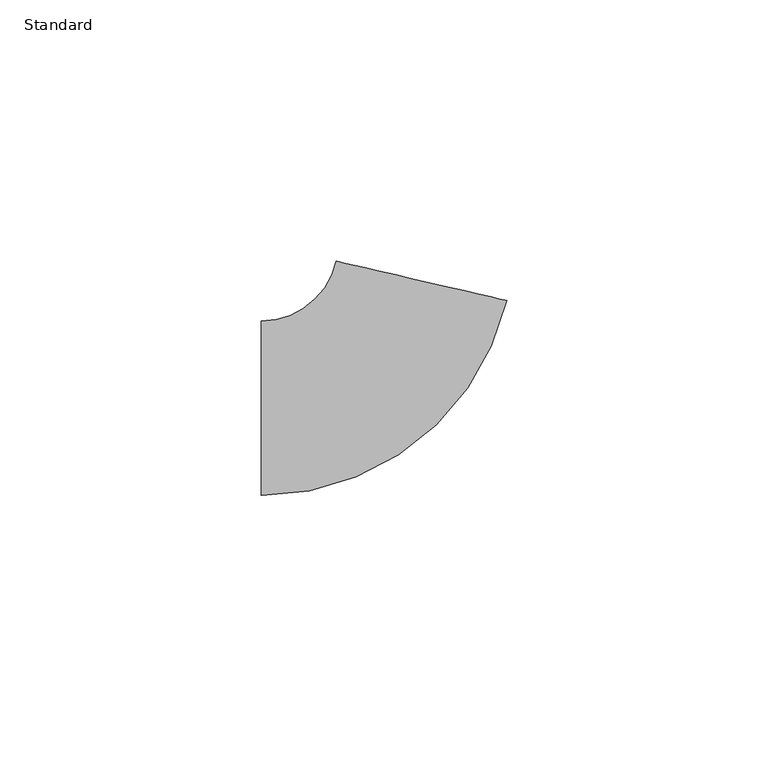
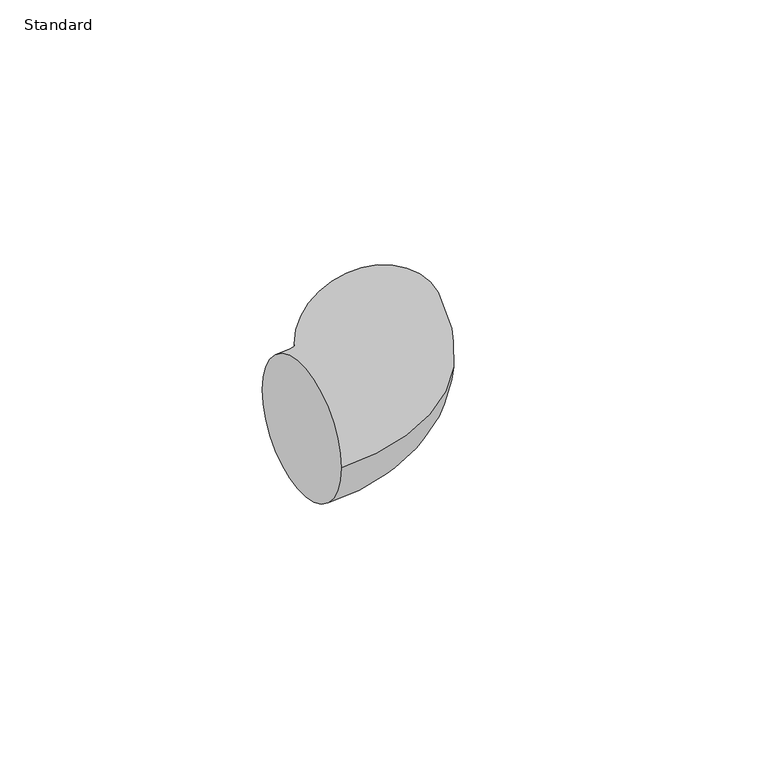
"""IFC4 building model written with IfcOpenShell, lengths in millimetres: pipe fitting geometry, Coude - Générique1 : Standard."""

import ifcopenshell
import ifcopenshell.guid

model = None  # the IFC model being written
_history = None  # IfcOwnerHistory: only IFC2X3 demands one
_inside = {}  # id of a spatial element -> (the spatial element, [elements in it])
_under = {}  # id of a project, library or spatial element -> (it, [spatial elements below it])
_declared = {}  # id of a project -> (the project, [libraries it declares])
_typed = {}  # id of a type object -> (the type object, [elements of that type])
_made_of = {}  # id of a material, layer set ... -> (it, [elements and type objects made of it])


def new_model(schema):
    """Start an empty IFC model of exactly this schema.

    Asked for "IFC4X3", IfcOpenShell would pick the latest addendum, in which some entities
    have other attributes; the version numbers below select the first issue.
    IFC2X3 requires an IfcOwnerHistory on every rooted entity: one is made here for all.
    """
    global model, _history
    if schema == "IFC4X3":
        model = ifcopenshell.file(schema_version=(4, 3, 0, 0))
    else:
        model = ifcopenshell.file(schema=schema)
    _inside.clear()
    _under.clear()
    _declared.clear()
    _typed.clear()
    _made_of.clear()
    _history = None
    if model.schema == "IFC2X3":
        org = make("IfcOrganization", Name="unknown")
        user = make(
            "IfcPersonAndOrganization",
            ThePerson=make("IfcPerson", FamilyName="unknown"),
            TheOrganization=org,
        )
        app = make(
            "IfcApplication",
            ApplicationDeveloper=org,
            Version="unknown",
            ApplicationFullName="unknown",
            ApplicationIdentifier="unknown",
        )
        _history = make(
            "IfcOwnerHistory",
            OwningUser=user,
            OwningApplication=app,
            ChangeAction="ADDED",
            CreationDate=0,
        )
    return model


def make(cls, **values):
    """One entity of the class cls with the attributes given. An attribute that is None is left unset."""
    return model.create_entity(
        cls, **{name: value for name, value in values.items() if value is not None}
    )


def rooted(cls, **values):
    """An entity with a GlobalId (a new one), such as an element, a storey or a relation."""
    return make(cls, GlobalId=ifcopenshell.guid.new(), OwnerHistory=_history, **values)


def si_unit(unit_type, name, prefix=None):
    """IfcSIUnit, for example si_unit("LENGTHUNIT", "METRE", prefix="MILLI")."""
    return make("IfcSIUnit", UnitType=unit_type, Prefix=prefix, Name=name)


def assignment(units):
    """IfcUnitAssignment: the units of a project."""
    return None if units is None else make("IfcUnitAssignment", Units=units)


def point(xyz):
    """IfcCartesianPoint."""
    return None if xyz is None else make("IfcCartesianPoint", Coordinates=xyz)


def direction(xyz):
    """IfcDirection."""
    return None if xyz is None else make("IfcDirection", DirectionRatios=xyz)


def frame(location, z_axis=None, x_axis=None):
    """IfcAxis2Placement3D, a coordinate frame: its origin and axes. An axis left out is left unset."""
    return make(
        "IfcAxis2Placement3D",
        Location=point(location),
        Axis=direction(z_axis),
        RefDirection=direction(x_axis),
    )


def origin():
    """The frame at (0, 0, 0) with its axes left unset."""
    return frame((0.0, 0.0, 0.0))


def place(relative_to, where):
    """IfcLocalPlacement: puts the frame where relative to a parent placement (None: the world)."""
    return make(
        "IfcLocalPlacement", PlacementRelTo=relative_to, RelativePlacement=where
    )


def context(
    kind, dimensions, precision=None, world=None, true_north=None, identifier=None
):
    """IfcGeometricRepresentationContext, for example the 3D "Model" context."""
    return make(
        "IfcGeometricRepresentationContext",
        ContextIdentifier=identifier,
        ContextType=kind,
        CoordinateSpaceDimension=dimensions,
        Precision=precision,
        WorldCoordinateSystem=world,
        TrueNorth=true_north,
    )


def project(units=None, contexts=None):
    """IfcProject with its units and contexts."""
    return rooted(
        "IfcProject",
        Name="project",
        RepresentationContexts=contexts,
        UnitsInContext=assignment(units),
    )


def spatial(cls, under=None, at=None, **own):
    """A site, building, storey or space (cls), placed at a placement, below another one or the project."""
    s = rooted(cls, ObjectPlacement=at, **own)
    if under is not None:
        _under.setdefault(under.id(), (under, []))[1].append(s)
    return s


def circle_curve(where, radius):
    """IfcCircle in the frame where."""
    return make("IfcCircle", Position=where, Radius=radius)


def ellipse_curve(where, semi_axis1, semi_axis2):
    """IfcEllipse in the frame where."""
    return make(
        "IfcEllipse", Position=where, SemiAxis1=semi_axis1, SemiAxis2=semi_axis2
    )


def trimmed(basis, trim1, trim2, sense, master):
    """IfcTrimmedCurve: the piece of a basis curve between two trims."""
    return make(
        "IfcTrimmedCurve",
        BasisCurve=basis,
        Trim1=trim1,
        Trim2=trim2,
        SenseAgreement=sense,
        MasterRepresentation=master,
    )


def shape(context_of_items, identifier, shape_type, items):
    """IfcShapeRepresentation: the items that make up one representation, for example the "Body"."""
    return make(
        "IfcShapeRepresentation",
        ContextOfItems=context_of_items,
        RepresentationIdentifier=identifier,
        RepresentationType=shape_type,
        Items=items,
    )


def source(mapping_origin, context_of_items, identifier, shape_type, items):
    """IfcRepresentationMap: a shape defined once, which mapped items show again and again."""
    return make(
        "IfcRepresentationMap",
        MappingOrigin=mapping_origin,
        MappedRepresentation=shape(context_of_items, identifier, shape_type, items),
    )


def transform(
    local_origin,
    x_axis=None,
    y_axis=None,
    z_axis=None,
    scale=None,
    scale2=None,
    scale3=None,
    uniform=True,
):
    """IfcCartesianTransformationOperator3D, or its non-uniform kind. x_axis, y_axis, z_axis: its Axis1, 2, 3."""
    if uniform:
        return make(
            "IfcCartesianTransformationOperator3D",
            Axis1=direction(x_axis),
            Axis2=direction(y_axis),
            LocalOrigin=point(local_origin),
            Scale=scale,
            Axis3=direction(z_axis),
        )
    return make(
        "IfcCartesianTransformationOperator3DnonUniform",
        Axis1=direction(x_axis),
        Axis2=direction(y_axis),
        LocalOrigin=point(local_origin),
        Scale=scale,
        Axis3=direction(z_axis),
        Scale2=scale2,
        Scale3=scale3,
    )


def mapped(mapping_source, mapping_target):
    """IfcMappedItem: shows the shape of a source again, moved by a transform."""
    return make(
        "IfcMappedItem", MappingSource=mapping_source, MappingTarget=mapping_target
    )


def made_of(thing, what):
    """Note that an element or type object is made of a material, layer set ...; save() writes the relation."""
    if what is not None:
        _made_of.setdefault(what.id(), (what, []))[1].append(thing)
    return thing


def element(
    cls,
    number,
    at=None,
    inside=None,
    cuts=None,
    type_object=None,
    material=None,
    context=None,
    identifier="Body",
    shape_type=None,
    held_by="IfcProductDefinitionShape",
    body=None,
    shapes=None,
    **own,
):
    """One element of the class cls, such as IfcWall. Its Tag is "e" and its number.

    at: its placement. inside: the storey or other place that contains it. cuts: it is an
    opening in that element (IfcRelVoidsElement). A single representation is given by context,
    identifier, shape_type and body (its items); several are given by shapes. held_by: the class
    of the entity that holds the representations. save() writes the other relations.
    """
    e = rooted(cls, Tag="e%d" % number, ObjectPlacement=at, **own)
    if body is not None:
        shapes = [shape(context, identifier, shape_type, body)]
    if shapes is not None:
        e.Representation = make(held_by, Representations=shapes)
    if inside is not None:
        _inside.setdefault(inside.id(), (inside, []))[1].append(e)
    if cuts is not None:
        rooted(
            "IfcRelVoidsElement", RelatingBuildingElement=cuts, RelatedOpeningElement=e
        )
    if type_object is not None:
        _typed.setdefault(type_object.id(), (type_object, []))[1].append(e)
    return made_of(e, material)


def aggregate(whole, parts):
    """IfcRelAggregates: a whole, such as a stair, and the parts it consists of."""
    return rooted("IfcRelAggregates", RelatingObject=whole, RelatedObjects=parts)


def save(model, path):
    """Write the relations noted so far, then the file.

    IfcRelAggregates (storeys below a building ...), IfcRelContainedInSpatialStructure (elements
    in a storey), IfcRelDefinesByType, IfcRelAssociatesMaterial and IfcRelDeclares: one each for
    every whole, place, type object, material and project.
    """
    for whole, parts in _under.values():
        aggregate(whole, parts)
    for where, things in _inside.values():
        rooted(
            "IfcRelContainedInSpatialStructure",
            RelatedElements=things,
            RelatingStructure=where,
        )
    for kind, things in _typed.values():
        rooted("IfcRelDefinesByType", RelatedObjects=things, RelatingType=kind)
    for what, things in _made_of.values():
        rooted("IfcRelAssociatesMaterial", RelatedObjects=things, RelatingMaterial=what)
    for by, libraries in _declared.values():
        rooted("IfcRelDeclares", RelatingContext=by, RelatedDefinitions=libraries)
    model.write(path)


def plane_surface(at):
    """IfcPlane: the flat surface through the origin of the frame at, square to its z axis."""
    return make("IfcPlane", Position=at)


def revolved_surface(curve, axis_point, axis_direction):
    """IfcSurfaceOfRevolution: the curve turned about the line through axis_point along axis_direction."""
    return make(
        "IfcSurfaceOfRevolution",
        SweptCurve=make("IfcArbitraryOpenProfileDef", ProfileType="CURVE", Curve=curve),
        AxisPosition=make("IfcAxis1Placement", Location=point(axis_point), Axis=direction(axis_direction)),
    )


def advanced_brep(points, edges, surfaces, faces):
    """IfcAdvancedBrep: a solid bounded by faces that lie on surfaces and meet in shared edges.

    An edge is (start, end): straight between two places in points (the first is 0);
    or (start, end, curve); or (start, end, curve, False) where it runs against its curve.
    A face is (place in surfaces, loops), or (place, loops, False) where it looks against
    its surface's normal. A loop lists edges by number (the first is 1), with a minus sign
    where the edge is run from its end to its start. The first loop is the outer one.
    """
    corners = [point(p) for p in points]
    vertices = [make("IfcVertexPoint", VertexGeometry=c) for c in corners]
    made = []
    for start, end, *more in edges:
        made.append(
            make(
                "IfcEdgeCurve",
                EdgeStart=vertices[start],
                EdgeEnd=vertices[end],
                EdgeGeometry=more[0] if more else make("IfcPolyline", Points=[corners[start], corners[end]]),
                SameSense=more[1] if len(more) > 1 else True,
            )
        )
    hull = []
    for where, loops, *sense in faces:
        bounds = []
        for j, loop in enumerate(loops):
            ring = [make("IfcOrientedEdge", EdgeElement=made[abs(k) - 1], Orientation=k > 0) for k in loop]
            bounds.append(
                make(
                    "IfcFaceOuterBound" if j == 0 else "IfcFaceBound",
                    Bound=make("IfcEdgeLoop", EdgeList=ring),
                    Orientation=True,
                )
            )
        hull.append(make("IfcAdvancedFace", Bounds=bounds, FaceSurface=surfaces[where], SameSense=sense[0] if sense else True))
    return make("IfcAdvancedBrep", Outer=make("IfcClosedShell", CfsFaces=hull))


def standard_2aeb2a97(model_context):
    return source(origin(), model_context, "Body", "AdvancedBrep", [
        advanced_brep(
        [(-25.0, -16.7, 0.0), (-25.0, 16.7, 0.0), (21.8992357, 20.5988707, 0.0), (-10.643455, 28.1177322, 0.0)],
        [
            (0, 1, circle_curve(frame((-25.0, 0.0, 0.0), z_axis=(-1.0, 0.0, 0.0), x_axis=(0.0, 1.0, 0.0)), 16.7)),
            (1, 0, circle_curve(frame((-25.0, 0.0, 0.0), z_axis=(-1.0, 0.0, 0.0), x_axis=(0.0, 1.0, 0.0)), 16.7)),
            (2, 3, circle_curve(frame((5.6278903, 24.3583015, 0.0), z_axis=(0.22511561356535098, 0.9743320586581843, 0.0), x_axis=(-0.9743320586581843, 0.22511561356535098, 0.0)), 16.7)),
            (3, 2, circle_curve(frame((5.6278903, 24.3583015, 0.0), z_axis=(0.22511561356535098, 0.9743320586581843, 0.0), x_axis=(-0.9743320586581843, 0.22511561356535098, 0.0)), 16.7)),
            (3, 1, circle_curve(frame((-25.0, 31.4347558, 0.0), z_axis=(0.0, 0.0, -1.0), x_axis=(0.0, -1.0, 0.0)), 14.7347558)),
            (0, 2, circle_curve(frame((-25.0, 31.4347558, 0.0), z_axis=(0.0, 0.0, 1.0), x_axis=(0.0, -1.0, 0.0)), 48.1347558)),
        ],
        [
            plane_surface(frame((-25.0, 0.0, 0.0), z_axis=(-1.0, 0.0, 0.0), x_axis=(0.0, 0.0, 1.0))),
            plane_surface(frame((5.6278903, 24.3583015, 0.0), z_axis=(0.225115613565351, 0.9743320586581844, 0.0), x_axis=(0.0, 0.0, 1.0))),
            revolved_surface(trimmed(ellipse_curve(frame((-25.0, 0.0, 0.0), z_axis=(-1.0, 0.0, 0.0), x_axis=(0.0, 1.0, 0.0)), 16.7, 16.7), [point((-25.0, -16.7, 0.0))], [point((-25.0, 16.7, 0.0))], True, "CARTESIAN"), (-25.0, 31.4347558, 0.0), (0.0, 0.0, 1.0)),
            revolved_surface(trimmed(ellipse_curve(frame((-25.0, 0.0, 0.0), z_axis=(-1.0, 0.0, 0.0), x_axis=(0.0, 1.0, 0.0)), 16.7, 16.7), [point((-25.0, 16.7, 0.0))], [point((-25.0, -16.7, 0.0))], True, "CARTESIAN"), (-25.0, 31.4347558, 0.0), (0.0, 0.0, 1.0)),
        ],
        [
            (0, [[1, 2]]),
            (1, [[3, 4]]),
            (2, [[5, -1, 6, -4]]),
            (3, [[-6, -2, -5, -3]]),
        ],
    ),
    ])


if __name__ == "__main__":
    model = new_model("IFC4")
    model_context = context("Model", 3, world=origin())
    ifc_project = project(units=[si_unit("LENGTHUNIT", "METRE", prefix="MILLI")], contexts=[model_context])
    site = spatial("IfcSite", under=ifc_project)
    building = spatial("IfcBuilding", under=site)
    placement = place(None, origin())
    standard_shape = standard_2aeb2a97(model_context)
    element("IfcPipeFitting", 1, ObjectType="Coude - Générique1 : Standard", at=placement, inside=building, context=model_context, shape_type="MappedRepresentation", body=[
        mapped(standard_shape, transform((0.0, 0.0, 0.0), x_axis=(1.0, 0.0, 0.0), y_axis=(0.0, 1.0, 0.0), z_axis=(0.0, 0.0, 1.0))),
    ])
    save(model, "model.ifc")
